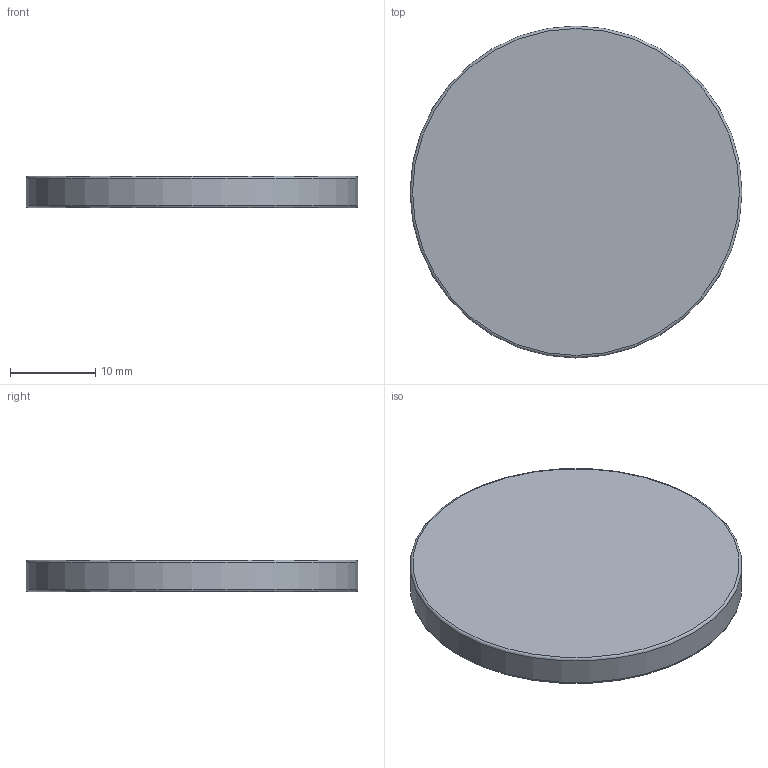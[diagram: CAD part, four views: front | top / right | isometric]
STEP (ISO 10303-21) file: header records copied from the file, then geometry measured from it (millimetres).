
FILE_DESCRIPTION (( 'STEP AP203' ), '1' );
FILE_NAME ('v4v3v2roda_motriz.STEP', '2026-08-19T20:49:49', ( '' ), ( '' ), 'SwSTEP 2.0', 'SolidWorks 2024', '' );
FILE_SCHEMA (( 'CONFIG_CONTROL_DESIGN' ));
Length unit declared in the file: millimetre
Products named in the file (1): v4v3v2roda_motriz
Bounding box: 39 x 39 x 3.7 mm (x, y, z)
Volume: 4415.3 mm3; surface area: 2810.9 mm2
Topology: 1 solids, 1 shells, 5 faces, 7 edges, 4 vertices
Faces by surface type: plane 2, torus 2, cylinder 1
Full cylindrical faces by diameter (mm): 39 x1
Entity records: 169 total; most frequent: DIRECTION 20, CARTESIAN_POINT 14, AXIS2_PLACEMENT_3D 10, EDGE_LOOP 8, FACE_OUTER_BOUND 8, PERSON_AND_ORGANIZATION 8, ORIENTED_EDGE 8, PERSON_AND_ORGANIZATION_ROLE 5
